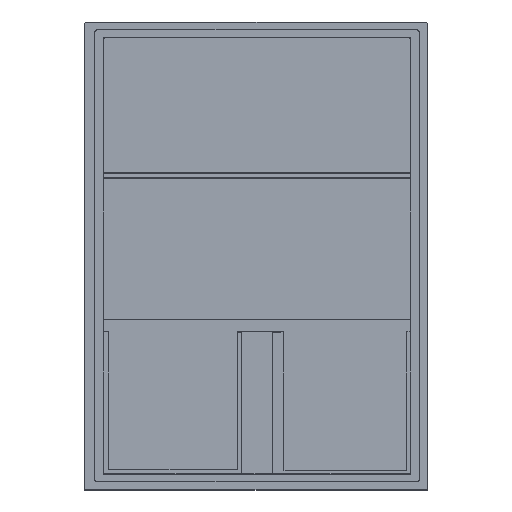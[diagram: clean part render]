
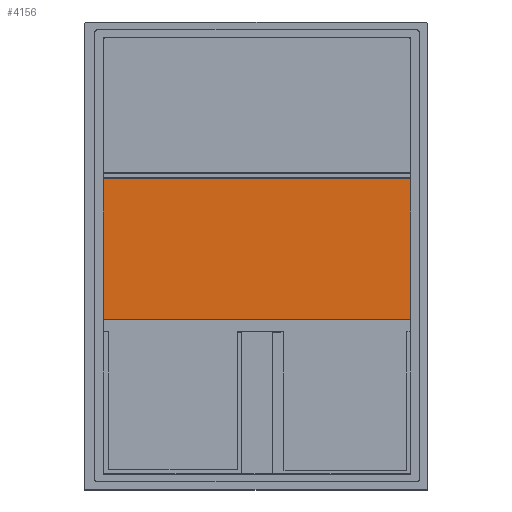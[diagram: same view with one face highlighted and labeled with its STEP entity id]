
A CAD part, top view. The second image highlights one B-rep face of the part: STEP entity #4156.
In plain terms, the highlighted planar face has unit normal (0, 0, 1).
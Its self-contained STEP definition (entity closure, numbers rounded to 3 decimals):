
#11 = LINE ( 'NONE', #5453, #15895 ) ;
#342 = CARTESIAN_POINT ( 'NONE',  ( 37.4, -28.762, 36.46 ) ) ;
#1043 = EDGE_CURVE ( 'NONE', #10288, #15641, #26156, .T. ) ;
#1485 = ORIENTED_EDGE ( 'NONE', *, *, #1043, .F. ) ;
#4156 = ADVANCED_FACE ( 'NONE', ( #26304 ), #19003, .F. ) ;
#4534 = EDGE_LOOP ( 'NONE', ( #26844, #23435, #26352, #1485 ) ) ;
#5453 = CARTESIAN_POINT ( 'NONE',  ( 73.389, 6.944, 36.46 ) ) ;
#7687 = DIRECTION ( 'NONE',  ( 0., -1., 0. ) ) ;
#7775 = VERTEX_POINT ( 'NONE', #15679 ) ;
#7854 = EDGE_CURVE ( 'NONE', #10288, #29294, #11, .T. ) ;
#8787 = VECTOR ( 'NONE', #27523, 1000. ) ;
#10288 = VERTEX_POINT ( 'NONE', #20828 ) ;
#11380 = DIRECTION ( 'NONE',  ( 0., 1., 0. ) ) ;
#11837 = LINE ( 'NONE', #17668, #20665 ) ;
#13039 = EDGE_CURVE ( 'NONE', #7775, #29294, #11837, .T. ) ;
#14581 = EDGE_CURVE ( 'NONE', #15641, #7775, #15951, .T. ) ;
#15053 = CARTESIAN_POINT ( 'NONE',  ( -37.4, 6.944, 36.46 ) ) ;
#15641 = VERTEX_POINT ( 'NONE', #24248 ) ;
#15679 = CARTESIAN_POINT ( 'NONE',  ( -37.4, -28.762, 36.46 ) ) ;
#15895 = VECTOR ( 'NONE', #22457, 1000. ) ;
#15951 = LINE ( 'NONE', #29965, #8787 ) ;
#17668 = CARTESIAN_POINT ( 'NONE',  ( -37.4, 39.85, 36.46 ) ) ;
#19003 = PLANE ( 'NONE',  #27071 ) ;
#19169 = VECTOR ( 'NONE', #7687, 1000. ) ;
#19989 = DIRECTION ( 'NONE',  ( -1., 0., 0. ) ) ;
#20665 = VECTOR ( 'NONE', #11380, 1000. ) ;
#20828 = CARTESIAN_POINT ( 'NONE',  ( 37.4, 6.944, 36.46 ) ) ;
#22457 = DIRECTION ( 'NONE',  ( -1., 0., 0. ) ) ;
#23435 = ORIENTED_EDGE ( 'NONE', *, *, #13039, .F. ) ;
#24248 = CARTESIAN_POINT ( 'NONE',  ( 37.4, -28.762, 36.46 ) ) ;
#24850 = CARTESIAN_POINT ( 'NONE',  ( 73.389, -28.762, 36.46 ) ) ;
#26156 = LINE ( 'NONE', #342, #19169 ) ;
#26304 = FACE_OUTER_BOUND ( 'NONE', #4534, .T. ) ;
#26352 = ORIENTED_EDGE ( 'NONE', *, *, #14581, .F. ) ;
#26844 = ORIENTED_EDGE ( 'NONE', *, *, #7854, .T. ) ;
#27071 = AXIS2_PLACEMENT_3D ( 'NONE', #24850, #28735, #19989 ) ;
#27523 = DIRECTION ( 'NONE',  ( -1., 0., 0. ) ) ;
#28735 = DIRECTION ( 'NONE',  ( 0., 0., -1. ) ) ;
#29294 = VERTEX_POINT ( 'NONE', #15053 ) ;
#29965 = CARTESIAN_POINT ( 'NONE',  ( 73.389, -28.762, 36.46 ) ) ;
